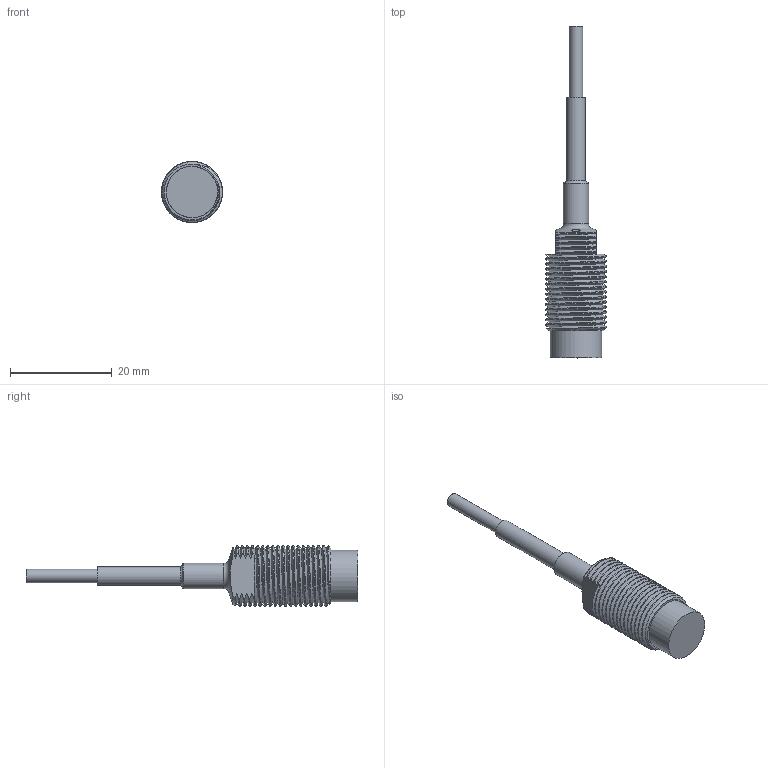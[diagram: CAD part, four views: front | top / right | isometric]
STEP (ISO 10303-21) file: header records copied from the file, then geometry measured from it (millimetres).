
FILE_DESCRIPTION( ( 'STEP AP214' ), '1' );
FILE_NAME( 'N:/Engineering/CAD_Solid/Wirbelstrom/Wirbelstromsensoren/T3/T3-G-KA.stp', '2013-04-26T06:37:32', ( ' ' ), ( ' ' ), 'XStep 1.0', ' ', ' ' );
FILE_SCHEMA( ( 'CONFIG_CONTROL_DESIGN) ( )' ) );
Length unit declared in the file: metre
Products named in the file (3): 1; 2; 3
Bounding box: 12 x 65.4 x 12 mm (x, y, z)
Surface area: 2257.4 mm2 (no closed solid volume)
Topology: 0 solids, 50 shells, 50 faces, 255 edges, 240 vertices
Faces by surface type: bspline 18, cylinder 14, plane 9, cone 6, torus 3
Full cylindrical faces by diameter (mm): 1.6 x2, 2.7 x1, 3.7 x1, 5 x1, 10.1 x1
Entity records: 57147 total; most frequent: CARTESIAN_POINT 55683, ORIENTED_EDGE 235, EDGE_CURVE 235, VERTEX_POINT 235, DIRECTION 180, B_SPLINE_CURVE_WITH_KNOTS 110, AXIS2_PLACEMENT_3D 73, FACE_BOUND 63
